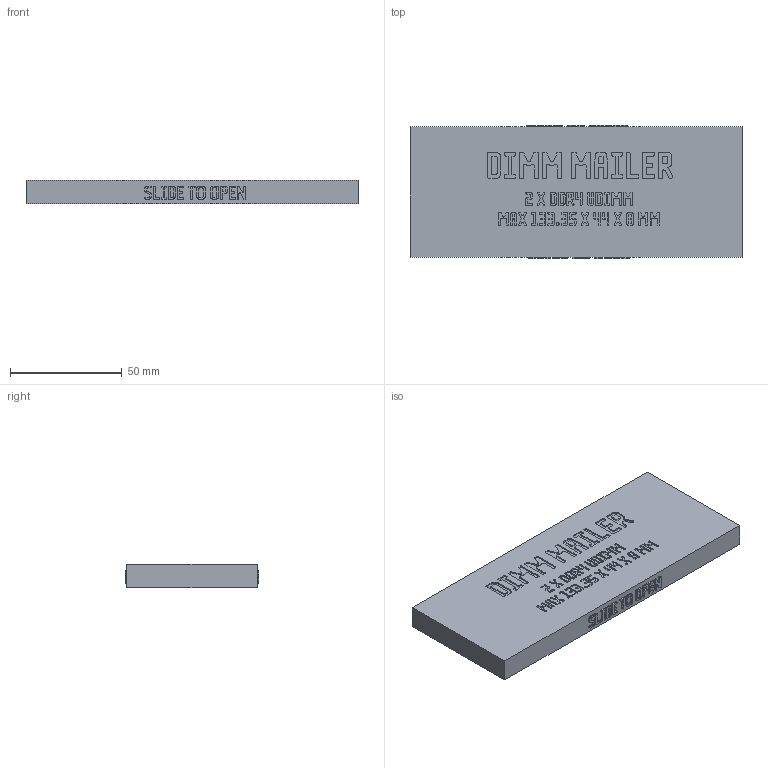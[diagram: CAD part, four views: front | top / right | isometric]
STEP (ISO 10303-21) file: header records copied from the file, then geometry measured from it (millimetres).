
FILE_DESCRIPTION(('Open CASCADE Model'),'2;1');
FILE_NAME('Open CASCADE Shape Model','2026-11-03T16:24:09',('Author'),( 'Open CASCADE'),'Open CASCADE STEP processor 8.0','build123d', 'Unknown');
FILE_SCHEMA(('AUTOMOTIVE_DESIGN { 1 0 10303 214 1 1 1 1 }'));
Products named in the file (1): COMPOUND
Bounding box: 148.5 x 59.7 x 10.4 mm (x, y, z)
Volume: 25284.2 mm3; surface area: 25629.9 mm2
Topology: 1 solids, 1 shells, 5881 faces, 17370 edges, 11572 vertices
Faces by surface type: plane 5881
Entity records: 417767 total; most frequent: CARTESIAN_POINT 69569, DIRECTION 63869, LINE 52105, VECTOR 52105, ORIENTED_EDGE 34740, PCURVE 34740, DEFINITIONAL_REPRESENTATION 34740, EDGE_CURVE 17370
